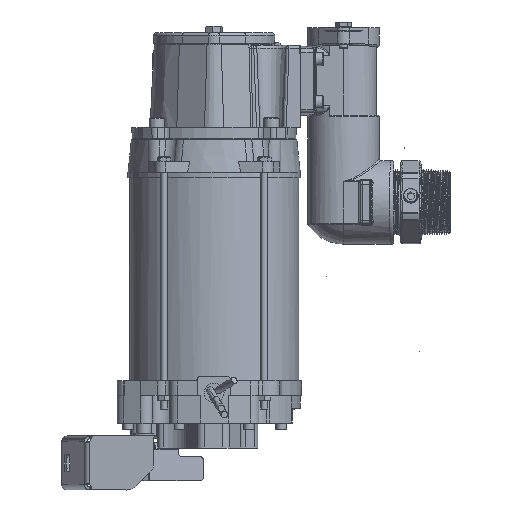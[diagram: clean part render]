
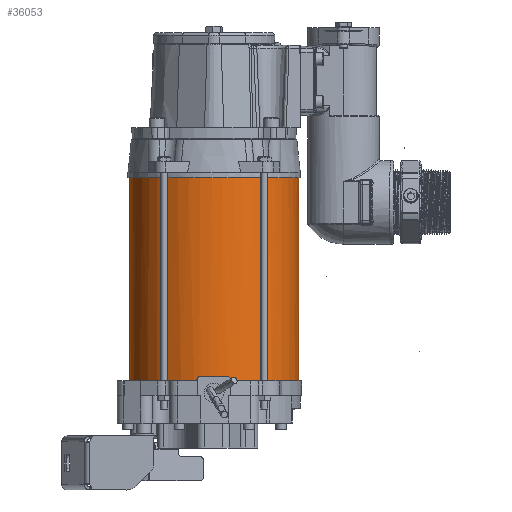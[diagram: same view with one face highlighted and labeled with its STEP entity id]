
A CAD part, left-side view. The second image highlights one B-rep face of the part: STEP entity #36053.
In plain terms, the highlighted cylindrical face has radius 77.978 mm (diameter 155.956 mm), a full revolution.
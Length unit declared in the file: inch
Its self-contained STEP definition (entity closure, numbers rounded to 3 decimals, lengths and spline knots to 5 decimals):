
#745=(
BOUNDED_CURVE()
B_SPLINE_CURVE(2,(#77383,#77384,#77385,#77386,#77387,#77388,#77389),
 .UNSPECIFIED.,.T.,.F.)
B_SPLINE_CURVE_WITH_KNOTS((3,2,2,3),(0.,0.33333,0.66667,
1.),.UNSPECIFIED.)
CURVE()
GEOMETRIC_REPRESENTATION_ITEM()
RATIONAL_B_SPLINE_CURVE((1.,0.5,1.,0.5,1.,0.5,1.))
REPRESENTATION_ITEM('')
);
#1245=B_SPLINE_CURVE_WITH_KNOTS('',3,(#57200,#57201,#57202,#57203,#57204,
#57205,#57206,#57207,#57208,#57209),.UNSPECIFIED.,.F.,.F.,(4,2,2,2,4),(0.1176,
0.1194,0.2388,0.3614,0.48401),
 .UNSPECIFIED.);
#1246=B_SPLINE_CURVE_WITH_KNOTS('',3,(#57214,#57215,#57216,#57217,#57218,
#57219,#57220,#57221,#57222,#57223),.UNSPECIFIED.,.F.,.F.,(4,2,2,2,4),(-0.48203,
-0.36058,-0.23914,-0.11957,-0.11761),
 .UNSPECIFIED.);
#1247=B_SPLINE_CURVE_WITH_KNOTS('',3,(#57228,#57229,#57230,#57231,#57232,
#57233,#57234,#57235,#57236,#57237),.UNSPECIFIED.,.F.,.F.,(4,2,2,2,4),(1.0808,
1.08274,1.20231,1.32389,1.44546),
 .UNSPECIFIED.);
#1248=B_SPLINE_CURVE_WITH_KNOTS('',3,(#57246,#57247,#57248,#57249,#57250,
#57251,#57252,#57253,#57254,#57255),.UNSPECIFIED.,.F.,.F.,(4,2,2,2,4),(0.4865,
0.60928,0.73207,0.85145,0.85323),
 .UNSPECIFIED.);
#1771=B_SPLINE_CURVE_WITH_KNOTS('',1,(#78382,#78383),.UNSPECIFIED.,.F.,
 .F.,(2,2),(0.,1.),.UNSPECIFIED.);
#4522=FACE_OUTER_BOUND('',#6608,.T.);
#6608=EDGE_LOOP('',(#27080,#27081,#27082,#27083,#27084,#27085,#27086,#27087,
#27088,#27089,#27090,#27091));
#8665=LINE('',#78381,#11015);
#11015=VECTOR('',#43716,3.07);
#12612=CIRCLE('',#37594,3.07);
#12613=CIRCLE('',#37595,3.07);
#12647=CIRCLE('',#37663,3.07);
#14179=VERTEX_POINT('',#56530);
#14205=VERTEX_POINT('',#56582);
#14206=VERTEX_POINT('',#56584);
#14273=VERTEX_POINT('',#57199);
#14274=VERTEX_POINT('',#57213);
#14275=VERTEX_POINT('',#57226);
#14276=VERTEX_POINT('',#57227);
#15084=VERTEX_POINT('',#77382);
#15194=VERTEX_POINT('',#78380);
#17767=EDGE_CURVE('',#14205,#14206,#12612,.T.);
#17768=EDGE_CURVE('',#14206,#14179,#12613,.T.);
#17868=EDGE_CURVE('',#14273,#14179,#1245,.T.);
#17871=EDGE_CURVE('',#14273,#14274,#1246,.F.);
#17873=EDGE_CURVE('',#14275,#14276,#1247,.T.);
#17879=EDGE_CURVE('',#14205,#14275,#1248,.T.);
#17880=EDGE_CURVE('',#14276,#14274,#12647,.T.);
#19247=EDGE_CURVE('',#15084,#15084,#745,.T.);
#19438=EDGE_CURVE('',#14206,#15194,#8665,.T.);
#19439=EDGE_CURVE('',#15084,#15194,#1771,.T.);
#27080=ORIENTED_EDGE('',*,*,#17868,.T.);
#27081=ORIENTED_EDGE('',*,*,#17768,.F.);
#27082=ORIENTED_EDGE('',*,*,#19438,.T.);
#27083=ORIENTED_EDGE('',*,*,#19439,.F.);
#27084=ORIENTED_EDGE('',*,*,#19247,.T.);
#27085=ORIENTED_EDGE('',*,*,#19439,.T.);
#27086=ORIENTED_EDGE('',*,*,#19438,.F.);
#27087=ORIENTED_EDGE('',*,*,#17767,.F.);
#27088=ORIENTED_EDGE('',*,*,#17879,.T.);
#27089=ORIENTED_EDGE('',*,*,#17873,.T.);
#27090=ORIENTED_EDGE('',*,*,#17880,.T.);
#27091=ORIENTED_EDGE('',*,*,#17871,.F.);
#32897=CYLINDRICAL_SURFACE('',#38558,3.07);
#36053=ADVANCED_FACE('',(#4522),#32897,.T.);
#37594=AXIS2_PLACEMENT_3D('',#56585,#41190,#41191);
#37595=AXIS2_PLACEMENT_3D('',#56586,#41192,#41193);
#37663=AXIS2_PLACEMENT_3D('',#57257,#41384,#41385);
#38558=AXIS2_PLACEMENT_3D('',#78379,#43714,#43715);
#41190=DIRECTION('center_axis',(0.,0.,
-1.));
#41191=DIRECTION('ref_axis',(-1.,0.,0.));
#41192=DIRECTION('center_axis',(0.,0.,
-1.));
#41193=DIRECTION('ref_axis',(-1.,0.,0.));
#41384=DIRECTION('center_axis',(0.,0.,
1.));
#41385=DIRECTION('ref_axis',(-1.,0.,0.));
#43714=DIRECTION('center_axis',(0.,0.,
-1.));
#43715=DIRECTION('ref_axis',(0.,-1.,0.));
#43716=DIRECTION('',(0.,0.,1.));
#56530=CARTESIAN_POINT('',(-3.31456,-0.80434,-11.23914));
#56582=CARTESIAN_POINT('',(-3.31021,0.62404,-11.23914));
#56584=CARTESIAN_POINT('',(-0.32662,2.97075,-11.23914));
#56585=CARTESIAN_POINT('Origin',(-0.32662,-0.09925,
-11.23914));
#56586=CARTESIAN_POINT('Origin',(-0.32662,-0.09925,
-11.23914));
#57199=CARTESIAN_POINT('',(-3.33954,-0.68852,-11.16114));
#57200=CARTESIAN_POINT('Ctrl Pts',(-3.33954,-0.68852,
-11.16114));
#57201=CARTESIAN_POINT('Ctrl Pts',(-3.33952,-0.68861,
-11.16137));
#57202=CARTESIAN_POINT('Ctrl Pts',(-3.3395,-0.6887,
-11.1616));
#57203=CARTESIAN_POINT('Ctrl Pts',(-3.33825,-0.69513,
-11.17716));
#57204=CARTESIAN_POINT('Ctrl Pts',(-3.33636,-0.70465,
-11.19113));
#57205=CARTESIAN_POINT('Ctrl Pts',(-3.33183,-0.72678,
-11.21345));
#57206=CARTESIAN_POINT('Ctrl Pts',(-3.32885,-0.74096,
-11.22318));
#57207=CARTESIAN_POINT('Ctrl Pts',(-3.32207,-0.77192,
-11.23602));
#57208=CARTESIAN_POINT('Ctrl Pts',(-3.31825,-0.78868,
-11.23914));
#57209=CARTESIAN_POINT('Ctrl Pts',(-3.31456,-0.80434,
-11.23914));
#57213=CARTESIAN_POINT('',(-3.3599,-0.57269,-11.08314));
#57214=CARTESIAN_POINT('Ctrl Pts',(-3.3599,-0.57269,-11.08314));
#57215=CARTESIAN_POINT('Ctrl Pts',(-3.35744,-0.58844,
-11.08314));
#57216=CARTESIAN_POINT('Ctrl Pts',(-3.35468,-0.60522,
-11.0863));
#57217=CARTESIAN_POINT('Ctrl Pts',(-3.34936,-0.6361,
-11.09913));
#57218=CARTESIAN_POINT('Ctrl Pts',(-3.3468,-0.6502,
-11.10881));
#57219=CARTESIAN_POINT('Ctrl Pts',(-3.34269,-0.67231,
-11.13105));
#57220=CARTESIAN_POINT('Ctrl Pts',(-3.34084,-0.68186,
-11.14504));
#57221=CARTESIAN_POINT('Ctrl Pts',(-3.33958,-0.68831,
-11.16064));
#57222=CARTESIAN_POINT('Ctrl Pts',(-3.33956,-0.68841,
-11.16089));
#57223=CARTESIAN_POINT('Ctrl Pts',(-3.33954,-0.68852,
-11.16114));
#57226=CARTESIAN_POINT('',(-3.33593,0.50821,-11.16114));
#57227=CARTESIAN_POINT('',(-3.357,0.39238,-11.08314));
#57228=CARTESIAN_POINT('Ctrl Pts',(-3.33593,0.50821,
-11.16114));
#57229=CARTESIAN_POINT('Ctrl Pts',(-3.33595,0.50811,
-11.16089));
#57230=CARTESIAN_POINT('Ctrl Pts',(-3.33597,0.50801,
-11.16064));
#57231=CARTESIAN_POINT('Ctrl Pts',(-3.33727,0.50156,-11.14505));
#57232=CARTESIAN_POINT('Ctrl Pts',(-3.33917,0.49201,
-11.13107));
#57233=CARTESIAN_POINT('Ctrl Pts',(-3.34343,0.46991,
-11.10882));
#57234=CARTESIAN_POINT('Ctrl Pts',(-3.34607,0.45581,
-11.09914));
#57235=CARTESIAN_POINT('Ctrl Pts',(-3.35159,0.42492,
-11.0863));
#57236=CARTESIAN_POINT('Ctrl Pts',(-3.35445,0.40813,-11.08314));
#57237=CARTESIAN_POINT('Ctrl Pts',(-3.357,0.39238,
-11.08314));
#57246=CARTESIAN_POINT('Ctrl Pts',(-3.31021,0.62404,
-11.23914));
#57247=CARTESIAN_POINT('Ctrl Pts',(-3.314,0.60838,
-11.23914));
#57248=CARTESIAN_POINT('Ctrl Pts',(-3.31792,0.59161,
-11.23602));
#57249=CARTESIAN_POINT('Ctrl Pts',(-3.32491,0.56065,-11.22317));
#57250=CARTESIAN_POINT('Ctrl Pts',(-3.32797,0.54646,
-11.21344));
#57251=CARTESIAN_POINT('Ctrl Pts',(-3.33265,0.52433,
-11.19111));
#57252=CARTESIAN_POINT('Ctrl Pts',(-3.33459,0.51482,
-11.17715));
#57253=CARTESIAN_POINT('Ctrl Pts',(-3.33589,0.5084,
-11.1616));
#57254=CARTESIAN_POINT('Ctrl Pts',(-3.33591,0.5083,
-11.16137));
#57255=CARTESIAN_POINT('Ctrl Pts',(-3.33593,0.50821,
-11.16114));
#57257=CARTESIAN_POINT('Origin',(-0.32662,-0.09925,
-11.08314));
#77382=CARTESIAN_POINT('',(-0.32663,2.97075,-3.86414));
#77383=CARTESIAN_POINT('Ctrl Pts',(-0.32663,2.97075,
-3.86414));
#77384=CARTESIAN_POINT('Ctrl Pts',(4.99077,2.97075,-3.86414));
#77385=CARTESIAN_POINT('Ctrl Pts',(2.33207,-1.63425,-3.86414));
#77386=CARTESIAN_POINT('Ctrl Pts',(-0.32663,-6.23925,
-3.86414));
#77387=CARTESIAN_POINT('Ctrl Pts',(-2.98532,-1.63425,
-3.86414));
#77388=CARTESIAN_POINT('Ctrl Pts',(-5.64402,2.97075,-3.86414));
#77389=CARTESIAN_POINT('Ctrl Pts',(-0.32663,2.97075,
-3.86414));
#78379=CARTESIAN_POINT('Origin',(-0.32663,-0.09925,
-5.26414));
#78380=CARTESIAN_POINT('',(-0.32662,2.97075,-10.86414));
#78381=CARTESIAN_POINT('',(-0.32663,2.97075,-5.26414));
#78382=CARTESIAN_POINT('Ctrl Pts',(-0.32663,2.97075,
-3.86414));
#78383=CARTESIAN_POINT('Ctrl Pts',(-0.32662,2.97075,
-10.86414));
